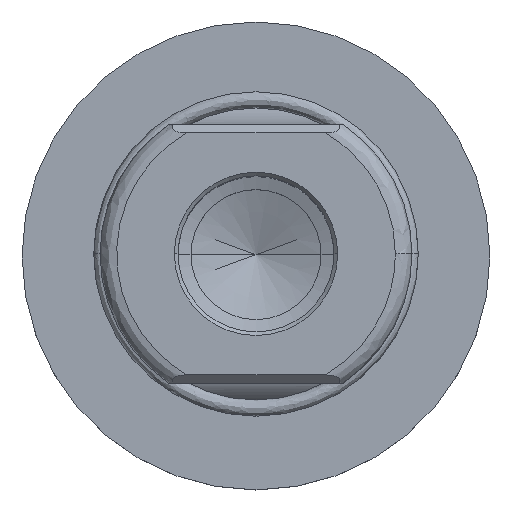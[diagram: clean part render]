
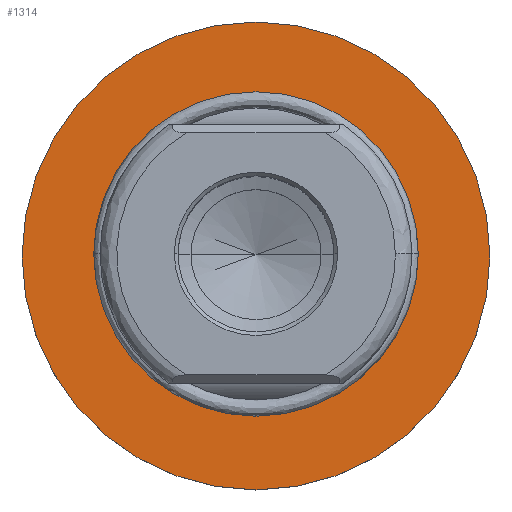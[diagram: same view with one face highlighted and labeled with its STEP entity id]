
A CAD part, top view. The second image highlights one B-rep face of the part: STEP entity #1314.
In plain terms, the highlighted planar face has unit normal (0, 0, 1).
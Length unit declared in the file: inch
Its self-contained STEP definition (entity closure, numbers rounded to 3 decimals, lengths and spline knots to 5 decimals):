
#88 = DIRECTION ( 'NONE',  ( -1., 0., 0. ) ) ;
#160 = DIRECTION ( 'NONE',  ( 1., 0., 0. ) ) ;
#252 = CIRCLE ( 'NONE', #954, 0.375 ) ;
#329 = CIRCLE ( 'NONE', #1670, 0.5625 ) ;
#449 = VERTEX_POINT ( 'NONE', #1393 ) ;
#489 = ORIENTED_EDGE ( 'NONE', *, *, #2038, .T. ) ;
#539 = CIRCLE ( 'NONE', #939, 0.5625 ) ;
#545 = PLANE ( 'NONE',  #1610 ) ;
#563 = CARTESIAN_POINT ( 'NONE',  ( 0.375, 0., -2.875 ) ) ;
#633 = AXIS2_PLACEMENT_3D ( 'NONE', #1015, #1883, #2062 ) ;
#644 = DIRECTION ( 'NONE',  ( 0., 0., 1. ) ) ;
#690 = DIRECTION ( 'NONE',  ( -1., 0., 0. ) ) ;
#885 = EDGE_CURVE ( 'NONE', #449, #1518, #1836, .T. ) ;
#889 = CARTESIAN_POINT ( 'NONE',  ( 0., 0., -2.875 ) ) ;
#895 = DIRECTION ( 'NONE',  ( 0., 0., 1. ) ) ;
#939 = AXIS2_PLACEMENT_3D ( 'NONE', #1557, #644, #88 ) ;
#954 = AXIS2_PLACEMENT_3D ( 'NONE', #889, #2347, #690 ) ;
#1015 = CARTESIAN_POINT ( 'NONE',  ( 0., 0., -2.875 ) ) ;
#1074 = DIRECTION ( 'NONE',  ( 0., 0., 1. ) ) ;
#1145 = EDGE_LOOP ( 'NONE', ( #489, #1232 ) ) ;
#1199 = VERTEX_POINT ( 'NONE', #1913 ) ;
#1232 = ORIENTED_EDGE ( 'NONE', *, *, #1683, .T. ) ;
#1282 = EDGE_CURVE ( 'NONE', #1518, #449, #252, .T. ) ;
#1284 = EDGE_LOOP ( 'NONE', ( #1385, #1965 ) ) ;
#1314 = ADVANCED_FACE ( 'NONE', ( #1477, #1677 ), #545, .T. ) ;
#1316 = CARTESIAN_POINT ( 'NONE',  ( -0.5625, 0., -2.875 ) ) ;
#1385 = ORIENTED_EDGE ( 'NONE', *, *, #885, .T. ) ;
#1393 = CARTESIAN_POINT ( 'NONE',  ( -0.375, 0., -2.875 ) ) ;
#1477 = FACE_BOUND ( 'NONE', #1284, .T. ) ;
#1518 = VERTEX_POINT ( 'NONE', #563 ) ;
#1557 = CARTESIAN_POINT ( 'NONE',  ( 0., 0., -2.875 ) ) ;
#1610 = AXIS2_PLACEMENT_3D ( 'NONE', #2160, #1074, #160 ) ;
#1670 = AXIS2_PLACEMENT_3D ( 'NONE', #1772, #895, #1801 ) ;
#1677 = FACE_OUTER_BOUND ( 'NONE', #1145, .T. ) ;
#1683 = EDGE_CURVE ( 'NONE', #1199, #2216, #539, .T. ) ;
#1772 = CARTESIAN_POINT ( 'NONE',  ( 0., 0., -2.875 ) ) ;
#1801 = DIRECTION ( 'NONE',  ( -1., 0., 0. ) ) ;
#1836 = CIRCLE ( 'NONE', #633, 0.375 ) ;
#1883 = DIRECTION ( 'NONE',  ( 0., 0., -1. ) ) ;
#1913 = CARTESIAN_POINT ( 'NONE',  ( 0.5625, 0., -2.875 ) ) ;
#1965 = ORIENTED_EDGE ( 'NONE', *, *, #1282, .T. ) ;
#2038 = EDGE_CURVE ( 'NONE', #2216, #1199, #329, .T. ) ;
#2062 = DIRECTION ( 'NONE',  ( -1., 0., 0. ) ) ;
#2160 = CARTESIAN_POINT ( 'NONE',  ( 0., 0., -2.875 ) ) ;
#2216 = VERTEX_POINT ( 'NONE', #1316 ) ;
#2347 = DIRECTION ( 'NONE',  ( 0., 0., -1. ) ) ;
